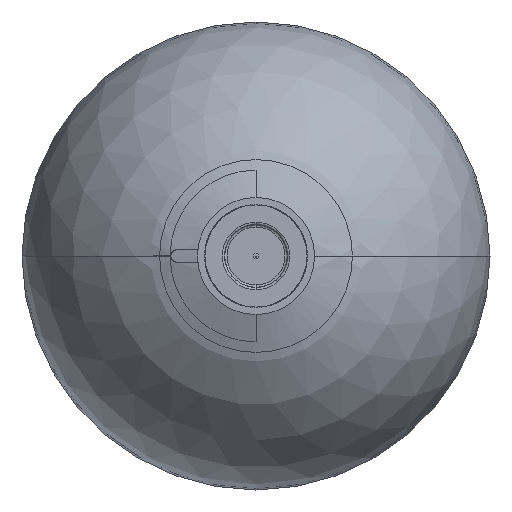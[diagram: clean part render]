
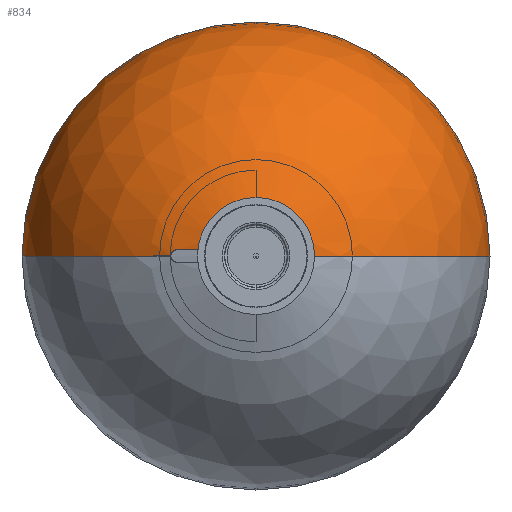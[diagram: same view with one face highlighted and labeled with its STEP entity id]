
A CAD part, front view. The second image highlights one B-rep face of the part: STEP entity #834.
In plain terms, the highlighted spherical face has radius 250 mm.
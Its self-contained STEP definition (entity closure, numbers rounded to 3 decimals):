
#666=CARTESIAN_POINT('',(0.,4150.,0.));
#667=DIRECTION('',(0.,-1.,0.));
#668=DIRECTION('',(1.,0.,0.));
#669=AXIS2_PLACEMENT_3D('',#666,#667,#668);
#686=CARTESIAN_POINT('',(-85.476,3915.156,
0.));
#687=DIRECTION('',(-0.342,-0.94,0.));
#688=DIRECTION('',(0.,0.,1.));
#689=AXIS2_PLACEMENT_3D('',#686,#687,#688);
#691=CARTESIAN_POINT('',(0.,4150.,0.));
#692=DIRECTION('',(0.,0.,1.));
#693=DIRECTION('',(0.026,-1.,0.));
#694=AXIS2_PLACEMENT_3D('',#691,#692,#693);
#696=CARTESIAN_POINT('',(0.,3900.085,0.));
#697=DIRECTION('',(0.,-1.,0.));
#698=DIRECTION('',(1.,0.,0.));
#699=AXIS2_PLACEMENT_3D('',#696,#697,#698);
#701=CARTESIAN_POINT('',(0.,4150.,6.5));
#702=DIRECTION('',(0.,0.,-1.));
#703=DIRECTION('',(0.,-1.,0.));
#704=AXIS2_PLACEMENT_3D('',#701,#702,#703);
#721=CARTESIAN_POINT('',(0.,4150.,0.));
#722=DIRECTION('',(0.,0.,-1.));
#723=DIRECTION('',(-0.366,-0.93,0.));
#724=AXIS2_PLACEMENT_3D('',#721,#722,#723);
#766=CARTESIAN_POINT('',(250.,4150.,0.));
#767=CARTESIAN_POINT('',(-250.,4150.,0.));
#768=VERTEX_POINT('',#766);
#769=VERTEX_POINT('',#767);
#774=CARTESIAN_POINT('',(6.5,3900.085,0.));
#775=VERTEX_POINT('',#774);
#780=CARTESIAN_POINT('',(0.,3900.085,6.5));
#781=VERTEX_POINT('',#780);
#787=CARTESIAN_POINT('',(-91.584,3917.379,
0.));
#789=VERTEX_POINT('',#787);
#790=CARTESIAN_POINT('',(-85.476,3915.156,6.5));
#791=VERTEX_POINT('',#790);
#816=CARTESIAN_POINT('',(0.,4150.,0.));
#817=DIRECTION('',(0.,-1.,0.));
#818=DIRECTION('',(1.,0.,0.));
#819=AXIS2_PLACEMENT_3D('',#816,#817,#818);
#820=SPHERICAL_SURFACE('',#819,250.);
#822=ORIENTED_EDGE('',*,*,#821,.T.);
#824=ORIENTED_EDGE('',*,*,#823,.T.);
#825=ORIENTED_EDGE('',*,*,#803,.F.);
#827=ORIENTED_EDGE('',*,*,#826,.F.);
#829=ORIENTED_EDGE('',*,*,#828,.T.);
#831=ORIENTED_EDGE('',*,*,#830,.T.);
#832=EDGE_LOOP('',(#822,#824,#825,#827,#829,#831));
#833=FACE_OUTER_BOUND('',#832,.F.);
#834=ADVANCED_FACE('',(#833),#820,.T.);
#670=CIRCLE('',#669,250.);
#690=CIRCLE('',#689,6.5);
#695=CIRCLE('',#694,250.);
#700=CIRCLE('',#699,6.5);
#705=CIRCLE('',#704,249.915);
#725=CIRCLE('',#724,250.);
#803=EDGE_CURVE('',#768,#769,#670,.T.);
#821=EDGE_CURVE('',#791,#789,#690,.T.);
#823=EDGE_CURVE('',#789,#769,#725,.T.);
#826=EDGE_CURVE('',#775,#768,#695,.T.);
#828=EDGE_CURVE('',#775,#781,#700,.T.);
#830=EDGE_CURVE('',#781,#791,#705,.T.);
